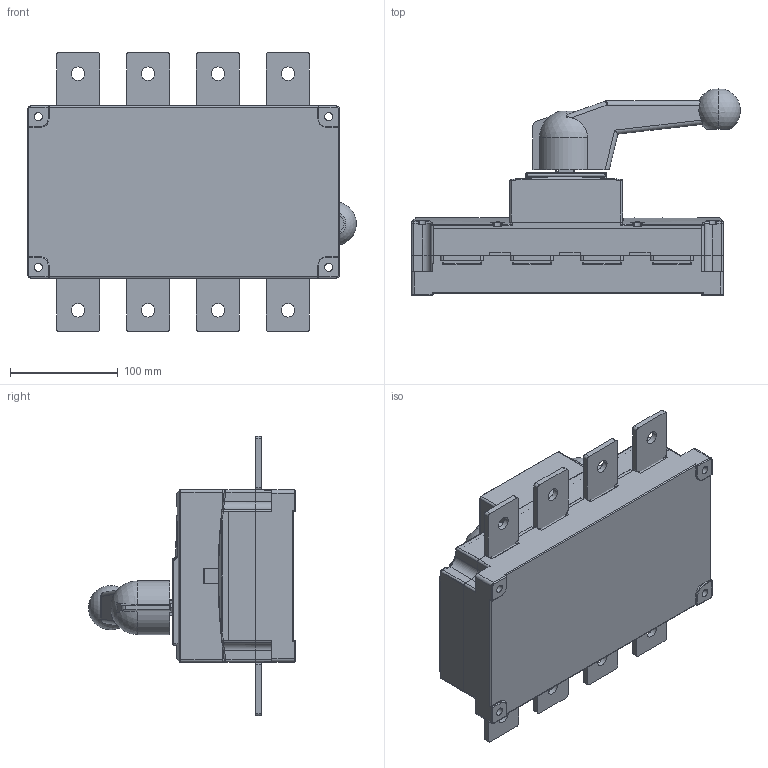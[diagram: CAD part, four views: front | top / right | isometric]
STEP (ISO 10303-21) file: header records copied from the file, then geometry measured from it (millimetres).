
FILE_DESCRIPTION((''),'2;1');
FILE_NAME('ASM0001_ASM','2024-03-18T',('zhuanghy'),(''),'CREO PARAMETRIC BY PTC INC, 2018070','CREO PARAMETRIC BY PTC INC, 2018070','');
FILE_SCHEMA(('AUTOMOTIVE_DESIGN { 1 0 10303 214 1 1 1 1 }'));
Length unit declared in the file: millimetre
Products named in the file (14): NH40-630BOCHA_97_1_1; ASM0004_ASM_3_ASM_ASM_1_1_ASM; NH40-315-3_ASM_ASM_1_1_ASM; NH40-315_630_202107__1_1; NH40-315-3_3P_201805_ASM_1_1_ASM; PRT0054; PRT0055; PRT0056; PRT0057; PRT0058; ASM0012_ASM_ASM; NH40-630-4_ASM_ASM; NH40-630-4_4P_201805_ASM; ASM0001_ASM
Assembly tree (20 placements, depth 5):
  ASM0001_ASM
    NH40-315-3_3P_201805_ASM_1_1_ASM
      NH40-315-3_ASM_ASM_1_1_ASM
        ASM0004_ASM_3_ASM_ASM_1_1_ASM
          NH40-630BOCHA_97_1_1
      NH40-315_630_202107__1_1
    NH40-630-4_4P_201805_ASM
      NH40-630-4_ASM_ASM
        ASM0012_ASM_ASM
          PRT0054
          PRT0055
          PRT0056
          PRT0057
          PRT0058  x8
Bounding box: 305.73 x 192.5 x 260 mm (x, y, z)
Volume: 4498165.8 mm3; surface area: 482702.9 mm2
Topology: 14 solids, 15 shells, 1185 faces, 3106 edges, 1957 vertices
Faces by surface type: cylinder 481, plane 462, bspline 106, torus 105, sphere 23, cone 8
Entity records: 45387 total; most frequent: CARTESIAN_POINT 20477, ORIENTED_EDGE 5214, DIRECTION 4937, EDGE_CURVE 2607, AXIS2_PLACEMENT_3D 1810, VERTEX_POINT 1635, VECTOR 1317, LINE 1317
